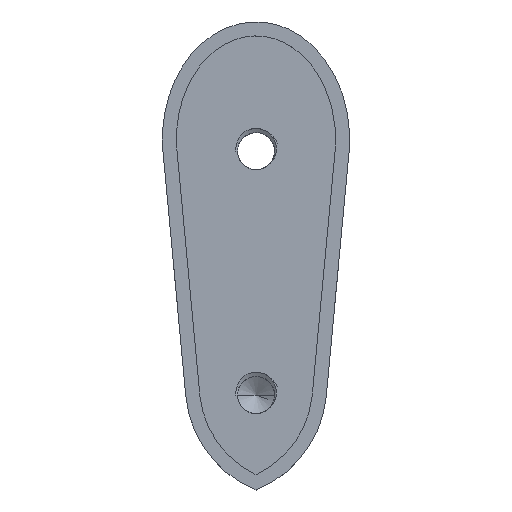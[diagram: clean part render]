
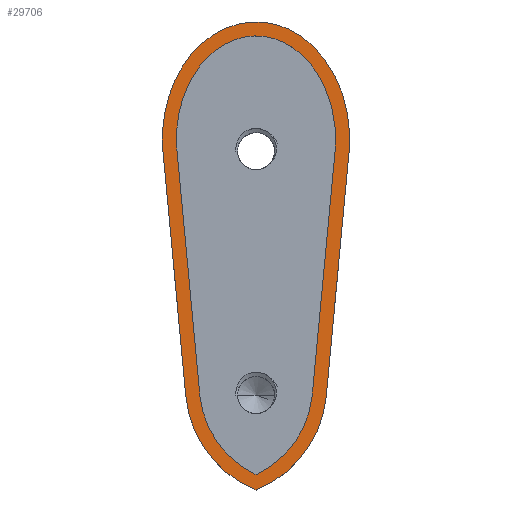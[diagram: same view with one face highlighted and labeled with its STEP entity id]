
A CAD part, top view. The second image highlights one B-rep face of the part: STEP entity #29706.
In plain terms, the highlighted planar face has unit normal (0, 0, 1).
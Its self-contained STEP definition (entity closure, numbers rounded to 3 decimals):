
#362 = CARTESIAN_POINT ( 'NONE',  ( -8.796, -40.078, 9.5 ) ) ;
#490 = VERTEX_POINT ( 'NONE', #2961 ) ;
#507 = LINE ( 'NONE', #28814, #31931 ) ;
#1289 = EDGE_CURVE ( 'NONE', #10872, #4973, #11974, .T. ) ;
#1898 = CARTESIAN_POINT ( 'NONE',  ( -21.352, 25.725, 9.5 ) ) ;
#2780 = AXIS2_PLACEMENT_3D ( 'NONE', #32726, #50161, #33085 ) ;
#2870 = CARTESIAN_POINT ( 'NONE',  ( -19.865, 9.802, 9.5 ) ) ;
#2961 = CARTESIAN_POINT ( 'NONE',  ( 12.013, -42.021, 9.5 ) ) ;
#3507 = CARTESIAN_POINT ( 'NONE',  ( 17.052, 14.853, 9.5 ) ) ;
#4041 = CARTESIAN_POINT ( 'NONE',  ( -12.859, 28.069, 9.5 ) ) ;
#4415 = CARTESIAN_POINT ( 'NONE',  ( -17.052, 14.853, 9.5 ) ) ;
#4443 = AXIS2_PLACEMENT_3D ( 'NONE', #20530, #33226, #7646 ) ;
#4973 = VERTEX_POINT ( 'NONE', #25750 ) ;
#6716 = ORIENTED_EDGE ( 'NONE', *, *, #12642, .T. ) ;
#6813 = DIRECTION ( 'NONE',  ( 0.093, 0.996, 0. ) ) ;
#6844 = DIRECTION ( 'NONE',  ( 0.093, -0.996, 0. ) ) ;
#6878 = DIRECTION ( 'NONE',  ( 0., 0., 1. ) ) ;
#7646 = DIRECTION ( 'NONE',  ( 1., 0., 0. ) ) ;
#8528 = CARTESIAN_POINT ( 'NONE',  ( -6.865, 33.496, 9.5 ) ) ;
#8904 = CARTESIAN_POINT ( 'NONE',  ( -16.039, 21.107, 9.5 ) ) ;
#10304 = CARTESIAN_POINT ( 'NONE',  ( 19.865, 9.802, 9.5 ) ) ;
#10722 = VECTOR ( 'NONE', #6844, 1000. ) ;
#10872 = VERTEX_POINT ( 'NONE', #2870 ) ;
#11474 = CARTESIAN_POINT ( 'NONE',  ( -12.013, -42.021, 9.5 ) ) ;
#11788 = VERTEX_POINT ( 'NONE', #50119 ) ;
#11974 = LINE ( 'NONE', #21404, #44815 ) ;
#12391 = CARTESIAN_POINT ( 'NONE',  ( 16.878, 10.081, 9.5 ) ) ;
#12642 = EDGE_CURVE ( 'NONE', #4973, #16455, #18989, .T. ) ;
#14964 = CARTESIAN_POINT ( 'NONE',  ( 21.352, 25.725, 9.5 ) ) ;
#15140 = CARTESIAN_POINT ( 'NONE',  ( 12.825, 37.7, 9.5 ) ) ;
#16455 = VERTEX_POINT ( 'NONE', #40785 ) ;
#17233 = LINE ( 'NONE', #24073, #33274 ) ;
#17762 = VERTEX_POINT ( 'NONE', #37254 ) ;
#17850 = DIRECTION ( 'NONE',  ( 0.093, -0.996, 0. ) ) ;
#17906 = DIRECTION ( 'NONE',  ( 1., 0., 0. ) ) ;
#17972 = VERTEX_POINT ( 'NONE', #51605 ) ;
#18557 = EDGE_CURVE ( 'NONE', #17762, #42202, #37537, .T. ) ;
#18989 = CIRCLE ( 'NONE', #19617, 23.9 ) ;
#19349 = CARTESIAN_POINT ( 'NONE',  ( 0., -59.036, 9.5 ) ) ;
#19421 = EDGE_LOOP ( 'NONE', ( #22340, #31755, #42407, #53931, #19824 ) ) ;
#19451 = AXIS2_PLACEMENT_3D ( 'NONE', #362, #39252, #17906 ) ;
#19617 = AXIS2_PLACEMENT_3D ( 'NONE', #47078, #25140, #46333 ) ;
#19824 = ORIENTED_EDGE ( 'NONE', *, *, #32471, .F. ) ;
#20305 = CIRCLE ( 'NONE', #2780, 20.9 ) ;
#20530 = CARTESIAN_POINT ( 'NONE',  ( 0., 12.7, 9.5 ) ) ;
#21057 = CARTESIAN_POINT ( 'NONE',  ( -17.026, 11.659, 9.5 ) ) ;
#21404 = CARTESIAN_POINT ( 'NONE',  ( -19.865, 9.802, 9.5 ) ) ;
#22340 = ORIENTED_EDGE ( 'NONE', *, *, #18557, .F. ) ;
#23013 = CIRCLE ( 'NONE', #33176, 20.9 ) ;
#23017 = CARTESIAN_POINT ( 'NONE',  ( 0., 37.7, 9.5 ) ) ;
#24073 = CARTESIAN_POINT ( 'NONE',  ( 12.013, -42.021, 9.5 ) ) ;
#25140 = DIRECTION ( 'NONE',  ( 0., 0., 1. ) ) ;
#25750 = CARTESIAN_POINT ( 'NONE',  ( -15., -42.3, 9.5 ) ) ;
#26156 = EDGE_CURVE ( 'NONE', #490, #37344, #17233, .T. ) ;
#26679 = VERTEX_POINT ( 'NONE', #19349 ) ;
#27215 = EDGE_CURVE ( 'NONE', #17972, #10872, #36337, .T. ) ;
#27528 = EDGE_CURVE ( 'NONE', #16455, #11788, #47685, .T. ) ;
#28814 = CARTESIAN_POINT ( 'NONE',  ( 15., -42.3, 9.5 ) ) ;
#29706 = ADVANCED_FACE ( 'NONE', ( #50150, #40077 ), #42226, .T. ) ;
#30001 = CARTESIAN_POINT ( 'NONE',  ( 6.865, 33.496, 9.5 ) ) ;
#31755 = ORIENTED_EDGE ( 'NONE', *, *, #38488, .F. ) ;
#31931 = VECTOR ( 'NONE', #6813, 1000. ) ;
#32432 = CARTESIAN_POINT ( 'NONE',  ( -16.878, 10.081, 9.5 ) ) ;
#32471 = EDGE_CURVE ( 'NONE', #42202, #26679, #23013, .T. ) ;
#32472 = DIRECTION ( 'NONE',  ( 0.093, 0.996, 0. ) ) ;
#32646 = DIRECTION ( 'NONE',  ( 1., 0., 0. ) ) ;
#32726 = CARTESIAN_POINT ( 'NONE',  ( -8.796, -40.078, 9.5 ) ) ;
#33085 = DIRECTION ( 'NONE',  ( 1., 0., 0. ) ) ;
#33176 = AXIS2_PLACEMENT_3D ( 'NONE', #54188, #6878, #32646 ) ;
#33226 = DIRECTION ( 'NONE',  ( 0., 0., 1. ) ) ;
#33274 = VECTOR ( 'NONE', #32472, 1000. ) ;
#34519 = CARTESIAN_POINT ( 'NONE',  ( -16.878, 10.081, 9.5 ) ) ;
#36337 =( BOUNDED_CURVE ( )  B_SPLINE_CURVE ( 3, ( #10304, #14964, #15140, #23017, #44561, #1898, #44744 ),
 .UNSPECIFIED., .F., .T. ) 
 B_SPLINE_CURVE_WITH_KNOTS ( ( 4, 3, 4 ),
 ( 1.455, 3.142, 4.829 ),
 .UNSPECIFIED. ) 
 CURVE ( )  GEOMETRIC_REPRESENTATION_ITEM ( )  RATIONAL_B_SPLINE_CURVE ( ( 1., 0.777, 0.777, 1., 0.777, 0.777, 1. ) ) 
 REPRESENTATION_ITEM ( '' )  );
#37254 = CARTESIAN_POINT ( 'NONE',  ( -16.878, 10.081, 9.5 ) ) ;
#37344 = VERTEX_POINT ( 'NONE', #12391 ) ;
#37537 = LINE ( 'NONE', #32432, #10722 ) ;
#37771 = CARTESIAN_POINT ( 'NONE',  ( 16.039, 21.107, 9.5 ) ) ;
#38488 = EDGE_CURVE ( 'NONE', #37344, #17762, #47501, .T. ) ;
#39252 = DIRECTION ( 'NONE',  ( 0., 0., 1. ) ) ;
#39999 = EDGE_CURVE ( 'NONE', #26679, #490, #20305, .T. ) ;
#40077 = FACE_BOUND ( 'NONE', #19421, .T. ) ;
#40785 = CARTESIAN_POINT ( 'NONE',  ( 0., -62.3, 9.5 ) ) ;
#41844 = CARTESIAN_POINT ( 'NONE',  ( 17.026, 11.659, 9.5 ) ) ;
#41847 = EDGE_LOOP ( 'NONE', ( #55296, #51725, #6716, #41861, #50027 ) ) ;
#41861 = ORIENTED_EDGE ( 'NONE', *, *, #27528, .T. ) ;
#42202 = VERTEX_POINT ( 'NONE', #11474 ) ;
#42226 = PLANE ( 'NONE',  #4443 ) ;
#42407 = ORIENTED_EDGE ( 'NONE', *, *, #26156, .F. ) ;
#42583 = CARTESIAN_POINT ( 'NONE',  ( 0., 35.302, 9.5 ) ) ;
#44561 = CARTESIAN_POINT ( 'NONE',  ( -12.825, 37.7, 9.5 ) ) ;
#44744 = CARTESIAN_POINT ( 'NONE',  ( -19.865, 9.802, 9.5 ) ) ;
#44815 = VECTOR ( 'NONE', #17850, 1000. ) ;
#46333 = DIRECTION ( 'NONE',  ( 1., 0., 0. ) ) ;
#46572 = CARTESIAN_POINT ( 'NONE',  ( 12.859, 28.069, 9.5 ) ) ;
#47078 = CARTESIAN_POINT ( 'NONE',  ( 8.796, -40.078, 9.5 ) ) ;
#47501 = B_SPLINE_CURVE_WITH_KNOTS ( 'NONE', 3,
 ( #50296, #41844, #3507, #37771, #46572, #30001, #42583, #8528, #4041, #8904, #4415, #21057, #34519 ),
 .UNSPECIFIED., .F., .F.,
 ( 4, 1, 1, 1, 1, 1, 1, 1, 1, 1, 4 ),
 ( 1.455, 1.665, 1.876, 2.298, 2.72, 3.142, 3.563, 3.985, 4.407, 4.618, 4.829 ),
 .UNSPECIFIED. ) ;
#47685 = CIRCLE ( 'NONE', #19451, 23.9 ) ;
#50027 = ORIENTED_EDGE ( 'NONE', *, *, #52554, .T. ) ;
#50119 = CARTESIAN_POINT ( 'NONE',  ( 15., -42.3, 9.5 ) ) ;
#50150 = FACE_OUTER_BOUND ( 'NONE', #41847, .T. ) ;
#50161 = DIRECTION ( 'NONE',  ( 0., 0., 1. ) ) ;
#50296 = CARTESIAN_POINT ( 'NONE',  ( 16.878, 10.081, 9.5 ) ) ;
#51605 = CARTESIAN_POINT ( 'NONE',  ( 19.865, 9.802, 9.5 ) ) ;
#51725 = ORIENTED_EDGE ( 'NONE', *, *, #1289, .T. ) ;
#52554 = EDGE_CURVE ( 'NONE', #11788, #17972, #507, .T. ) ;
#53931 = ORIENTED_EDGE ( 'NONE', *, *, #39999, .F. ) ;
#54188 = CARTESIAN_POINT ( 'NONE',  ( 8.796, -40.078, 9.5 ) ) ;
#55296 = ORIENTED_EDGE ( 'NONE', *, *, #27215, .T. ) ;
